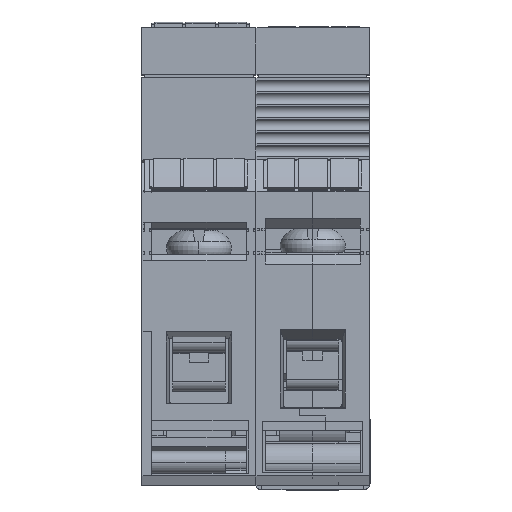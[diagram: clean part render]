
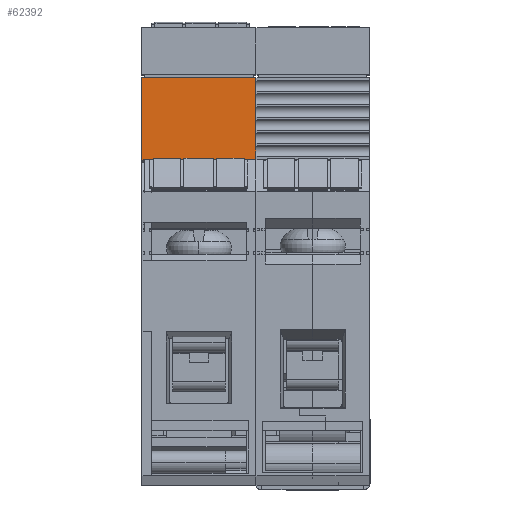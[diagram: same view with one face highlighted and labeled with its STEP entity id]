
A CAD part, top view. The second image highlights one B-rep face of the part: STEP entity #62392.
In plain terms, the highlighted planar face has unit normal (0, 0, 1).
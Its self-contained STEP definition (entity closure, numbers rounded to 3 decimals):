
#2732 = DIRECTION ( 'NONE',  ( 0., 0., 1. ) ) ;
#5721 = EDGE_CURVE ( 'NONE', #30466, #27407, #35682, .T. ) ;
#12160 = CARTESIAN_POINT ( 'NONE',  ( 0., 45.6, 22.5 ) ) ;
#12889 = CARTESIAN_POINT ( 'NONE',  ( 0., 33., 22.5 ) ) ;
#13737 = VERTEX_POINT ( 'NONE', #28180 ) ;
#14108 = CARTESIAN_POINT ( 'NONE',  ( -17.5, 33., 22.5 ) ) ;
#15890 = ORIENTED_EDGE ( 'NONE', *, *, #48268, .T. ) ;
#17415 = EDGE_LOOP ( 'NONE', ( #23674, #36505, #15890, #47905 ) ) ;
#20552 = CARTESIAN_POINT ( 'NONE',  ( -17.5, 33., 22.5 ) ) ;
#20624 = AXIS2_PLACEMENT_3D ( 'NONE', #20552, #2732, #37246 ) ;
#22232 = LINE ( 'NONE', #14108, #30088 ) ;
#23674 = ORIENTED_EDGE ( 'NONE', *, *, #40325, .F. ) ;
#26044 = CARTESIAN_POINT ( 'NONE',  ( -17.5, 33., 22.5 ) ) ;
#26601 = FACE_OUTER_BOUND ( 'NONE', #17415, .T. ) ;
#27407 = VERTEX_POINT ( 'NONE', #49012 ) ;
#28180 = CARTESIAN_POINT ( 'NONE',  ( -17.5, 45.6, 22.5 ) ) ;
#29460 = LINE ( 'NONE', #46486, #40846 ) ;
#30088 = VECTOR ( 'NONE', #31259, 1000. ) ;
#30466 = VERTEX_POINT ( 'NONE', #12160 ) ;
#31259 = DIRECTION ( 'NONE',  ( 1., 0., 0. ) ) ;
#31997 = VERTEX_POINT ( 'NONE', #26044 ) ;
#35682 = LINE ( 'NONE', #12889, #56738 ) ;
#36505 = ORIENTED_EDGE ( 'NONE', *, *, #58147, .T. ) ;
#37246 = DIRECTION ( 'NONE',  ( 1., 0., 0. ) ) ;
#40325 = EDGE_CURVE ( 'NONE', #13737, #30466, #56808, .T. ) ;
#40846 = VECTOR ( 'NONE', #41557, 1000. ) ;
#41557 = DIRECTION ( 'NONE',  ( 0., -1., 0. ) ) ;
#46486 = CARTESIAN_POINT ( 'NONE',  ( -17.5, 33., 22.5 ) ) ;
#47905 = ORIENTED_EDGE ( 'NONE', *, *, #5721, .F. ) ;
#48268 = EDGE_CURVE ( 'NONE', #31997, #27407, #22232, .T. ) ;
#49012 = CARTESIAN_POINT ( 'NONE',  ( 0., 33., 22.5 ) ) ;
#50640 = VECTOR ( 'NONE', #69102, 1000. ) ;
#52391 = CARTESIAN_POINT ( 'NONE',  ( -17.5, 45.6, 22.5 ) ) ;
#56738 = VECTOR ( 'NONE', #69307, 1000. ) ;
#56808 = LINE ( 'NONE', #52391, #50640 ) ;
#58147 = EDGE_CURVE ( 'NONE', #13737, #31997, #29460, .T. ) ;
#62392 = ADVANCED_FACE ( 'NONE', ( #26601 ), #70128, .T. ) ;
#69102 = DIRECTION ( 'NONE',  ( 1., 0., 0. ) ) ;
#69307 = DIRECTION ( 'NONE',  ( 0., -1., 0. ) ) ;
#70128 = PLANE ( 'NONE',  #20624 ) ;
